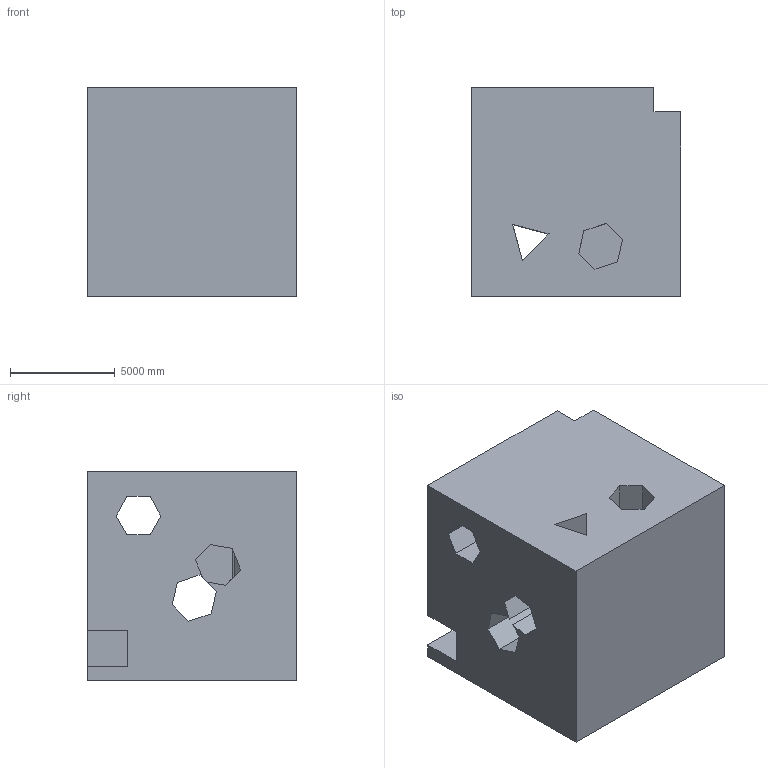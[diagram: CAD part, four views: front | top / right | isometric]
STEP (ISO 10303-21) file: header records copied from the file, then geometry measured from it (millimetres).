
FILE_DESCRIPTION (( 'STEP AP203' ), '1' );
FILE_NAME ('159.STEP', '2022-08-31T12:01:33', ( 'user' ), ( '' ), 'SwSTEP 2.0', 'SolidWorks 2021', '' );
FILE_SCHEMA (( 'CONFIG_CONTROL_DESIGN' ));
Length unit declared in the file: centimetre
Products named in the file (1): 159
Bounding box: 10000 x 10000 x 10000 mm (x, y, z)
Volume: 876527765879.8 mm3; surface area: 812999187.8 mm2
Topology: 1 solids, 1 shells, 47 faces, 138 edges, 92 vertices
Faces by surface type: plane 47
Entity records: 1625 total; most frequent: CARTESIAN_POINT 278, ORIENTED_EDGE 276, DIRECTION 234, VECTOR 138, EDGE_CURVE 138, LINE 138, VERTEX_POINT 92, EDGE_LOOP 54
